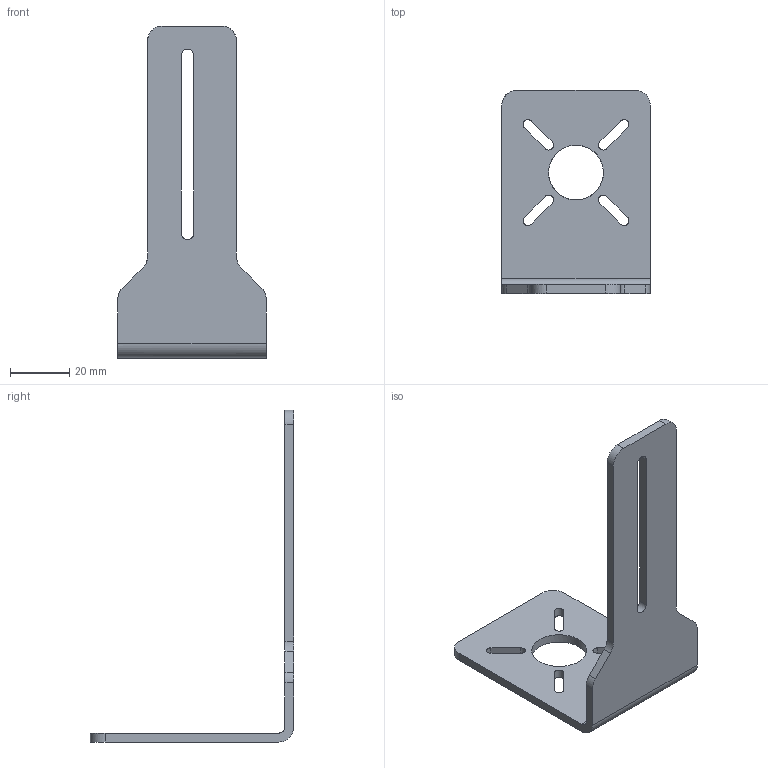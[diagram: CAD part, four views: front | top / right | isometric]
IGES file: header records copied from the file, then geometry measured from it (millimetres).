
Global section: file name: 153-00707_MA LR-18_112 FA 45 Haltewinkel Beleuchtung; native system: Autodesk Inventor 2018; preprocessor: unknown; author: mum; date: 20180502.083207; units: millimetre
Bounding box: 50 x 68.6 x 112 mm (x, y, z)
Volume: 19163.3 mm3; surface area: 15005.4 mm2
Topology: 1 solids, 1 shells, 43 faces, 123 edges, 82 vertices
Faces by surface type: bspline 43
